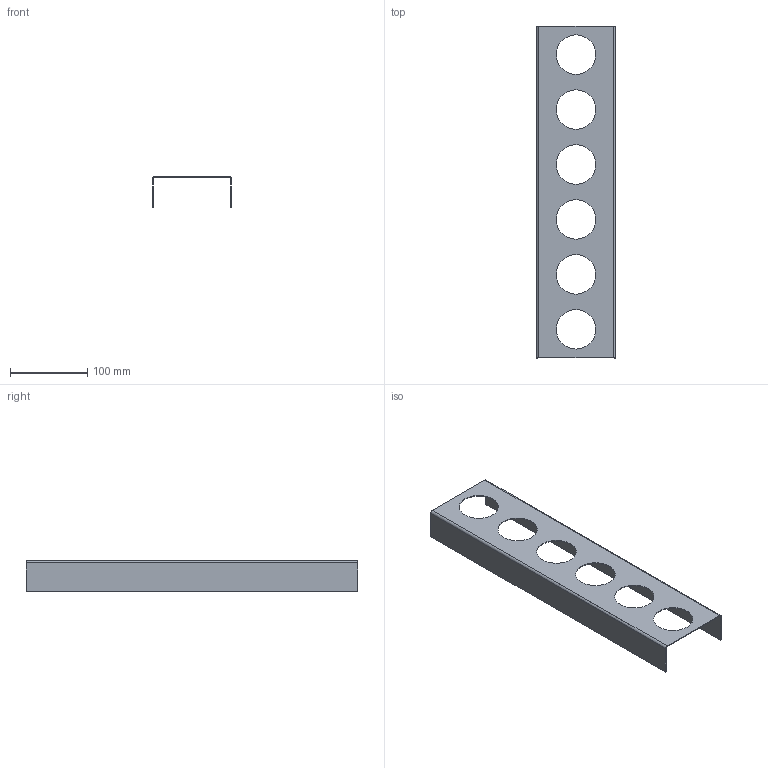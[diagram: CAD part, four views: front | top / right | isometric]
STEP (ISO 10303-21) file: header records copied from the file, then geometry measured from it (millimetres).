
FILE_DESCRIPTION (( 'STEP AP214' ), '1' );
FILE_NAME ('Gewuerzeinsatz_68311-01.STEP', '2010-10-25T13:27:18', ( 'grass' ), ( '' ), 'SwSTEP 2.0', 'SolidWorks 2010', '' );
FILE_SCHEMA (( 'AUTOMOTIVE_DESIGN' ));
Length unit declared in the file: millimetre
Products named in the file (1): Gewuerzeinsatz_68311-01
Bounding box: 102 x 429 x 40 mm (x, y, z)
Volume: 64042.4 mm3; surface area: 130259.9 mm2
Topology: 1 solids, 1 shells, 26 faces, 72 edges, 48 vertices
Faces by surface type: cylinder 16, plane 10
Entity records: 906 total; most frequent: DIRECTION 158, CARTESIAN_POINT 147, ORIENTED_EDGE 144, EDGE_CURVE 72, AXIS2_PLACEMENT_3D 59, VERTEX_POINT 48, VECTOR 40, LINE 40
